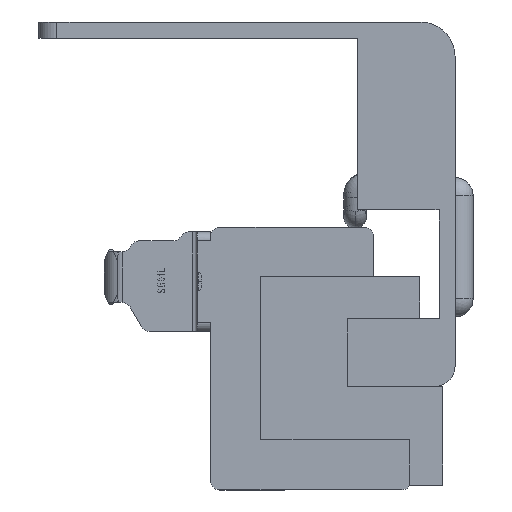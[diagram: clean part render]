
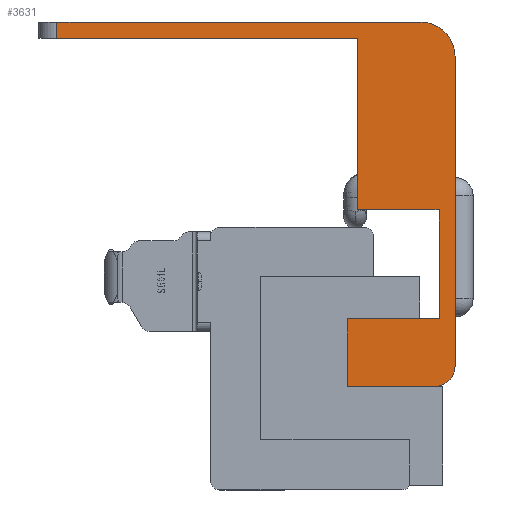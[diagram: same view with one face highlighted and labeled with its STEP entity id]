
A CAD part, left-side view. The second image highlights one B-rep face of the part: STEP entity #3631.
In plain terms, the highlighted planar face has unit normal (-1, 0, 0).
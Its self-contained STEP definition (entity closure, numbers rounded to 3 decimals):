
#44 = VERTEX_POINT ( 'NONE', #2366 ) ;
#48 = CARTESIAN_POINT ( 'NONE',  ( -137.5, 10.77, 19.53 ) ) ;
#113 = VECTOR ( 'NONE', #5038, 1000. ) ;
#165 = CARTESIAN_POINT ( 'NONE',  ( -137.5, 10.77, 19.53 ) ) ;
#725 = ORIENTED_EDGE ( 'NONE', *, *, #10718, .F. ) ;
#1054 = DIRECTION ( 'NONE',  ( 0., 0., 1. ) ) ;
#1098 = DIRECTION ( 'NONE',  ( 0., 0., -1. ) ) ;
#1136 = ORIENTED_EDGE ( 'NONE', *, *, #6733, .F. ) ;
#1183 = CARTESIAN_POINT ( 'NONE',  ( -137.5, 11.92, 0. ) ) ;
#1215 = ORIENTED_EDGE ( 'NONE', *, *, #12844, .F. ) ;
#1228 = VERTEX_POINT ( 'NONE', #4011 ) ;
#1731 = CARTESIAN_POINT ( 'NONE',  ( -137.5, 46., 40.3 ) ) ;
#1800 = CARTESIAN_POINT ( 'NONE',  ( -137.5, 1.77, 2.27 ) ) ;
#1861 = LINE ( 'NONE', #1731, #11880 ) ;
#1872 = VECTOR ( 'NONE', #5831, 1000. ) ;
#1953 = VERTEX_POINT ( 'NONE', #5474 ) ;
#2281 = ORIENTED_EDGE ( 'NONE', *, *, #4417, .F. ) ;
#2366 = CARTESIAN_POINT ( 'NONE',  ( -137.5, 44., 40.3 ) ) ;
#2435 = VECTOR ( 'NONE', #1054, 1000. ) ;
#2470 = LINE ( 'NONE', #1800, #5110 ) ;
#2565 = VERTEX_POINT ( 'NONE', #8740 ) ;
#2615 = CARTESIAN_POINT ( 'NONE',  ( -137.5, 2.27, 2.27 ) ) ;
#2740 = EDGE_LOOP ( 'NONE', ( #2281, #5557, #7598, #1136, #10052, #4888, #4212, #7429, #9908, #725, #1215, #6610 ) ) ;
#3175 = DIRECTION ( 'NONE',  ( 1., 0., 0. ) ) ;
#3624 = DIRECTION ( 'NONE',  ( 0., 0., -1. ) ) ;
#3631 = ADVANCED_FACE ( 'NONE', ( #5704 ), #12076, .F. ) ;
#3712 = VERTEX_POINT ( 'NONE', #1183 ) ;
#4011 = CARTESIAN_POINT ( 'NONE',  ( -137.5, 2.27, 0. ) ) ;
#4165 = VERTEX_POINT ( 'NONE', #10398 ) ;
#4212 = ORIENTED_EDGE ( 'NONE', *, *, #5690, .F. ) ;
#4271 = EDGE_CURVE ( 'NONE', #4292, #1228, #11427, .T. ) ;
#4292 = VERTEX_POINT ( 'NONE', #7620 ) ;
#4415 = AXIS2_PLACEMENT_3D ( 'NONE', #6068, #7063, #1098 ) ;
#4417 = EDGE_CURVE ( 'NONE', #1228, #3712, #4519, .T. ) ;
#4488 = DIRECTION ( 'NONE',  ( 0., 1., 0. ) ) ;
#4494 = CARTESIAN_POINT ( 'NONE',  ( -137.5, 44., 38.53 ) ) ;
#4519 = LINE ( 'NONE', #7798, #1872 ) ;
#4573 = CARTESIAN_POINT ( 'NONE',  ( -137.5, 3.77, 40.3 ) ) ;
#4599 = AXIS2_PLACEMENT_3D ( 'NONE', #2615, #9615, #3624 ) ;
#4613 = CARTESIAN_POINT ( 'NONE',  ( -137.5, 11.92, 0. ) ) ;
#4888 = ORIENTED_EDGE ( 'NONE', *, *, #5928, .T. ) ;
#4997 = CARTESIAN_POINT ( 'NONE',  ( -137.5, 0., 36.53 ) ) ;
#5012 = EDGE_CURVE ( 'NONE', #44, #5380, #1861, .T. ) ;
#5038 = DIRECTION ( 'NONE',  ( 0., 0., -1. ) ) ;
#5110 = VECTOR ( 'NONE', #7763, 1000. ) ;
#5173 = DIRECTION ( 'NONE',  ( 0., 0., -1. ) ) ;
#5245 = VECTOR ( 'NONE', #8657, 1000. ) ;
#5302 = AXIS2_PLACEMENT_3D ( 'NONE', #9157, #3175, #10188 ) ;
#5380 = VERTEX_POINT ( 'NONE', #4573 ) ;
#5399 = EDGE_CURVE ( 'NONE', #3712, #1953, #11729, .T. ) ;
#5424 = LINE ( 'NONE', #11053, #113 ) ;
#5474 = CARTESIAN_POINT ( 'NONE',  ( -137.5, 11.92, 7.488 ) ) ;
#5557 = ORIENTED_EDGE ( 'NONE', *, *, #4271, .F. ) ;
#5690 = EDGE_CURVE ( 'NONE', #2565, #12748, #8249, .T. ) ;
#5704 = FACE_OUTER_BOUND ( 'NONE', #2740, .T. ) ;
#5831 = DIRECTION ( 'NONE',  ( 0., 1., 0. ) ) ;
#5928 = EDGE_CURVE ( 'NONE', #44, #12748, #5424, .T. ) ;
#6068 = CARTESIAN_POINT ( 'NONE',  ( -137.5, 12.42, 1.5 ) ) ;
#6383 = VECTOR ( 'NONE', #11638, 1000. ) ;
#6504 = CARTESIAN_POINT ( 'NONE',  ( -137.5, 43.5, 38.53 ) ) ;
#6610 = ORIENTED_EDGE ( 'NONE', *, *, #5399, .F. ) ;
#6733 = EDGE_CURVE ( 'NONE', #5380, #12163, #10771, .T. ) ;
#7063 = DIRECTION ( 'NONE',  ( 1., 0., 0. ) ) ;
#7429 = ORIENTED_EDGE ( 'NONE', *, *, #12579, .F. ) ;
#7598 = ORIENTED_EDGE ( 'NONE', *, *, #9497, .F. ) ;
#7620 = CARTESIAN_POINT ( 'NONE',  ( -137.5, 0., 2.27 ) ) ;
#7670 = VECTOR ( 'NONE', #12056, 1000. ) ;
#7730 = CARTESIAN_POINT ( 'NONE',  ( -137.5, 1.77, 19.53 ) ) ;
#7739 = LINE ( 'NONE', #48, #2435 ) ;
#7763 = DIRECTION ( 'NONE',  ( 0., 0., 1. ) ) ;
#7771 = DIRECTION ( 'NONE',  ( 0., -1., 0. ) ) ;
#7798 = CARTESIAN_POINT ( 'NONE',  ( -137.5, 12.42, 0. ) ) ;
#8208 = LINE ( 'NONE', #9680, #5245 ) ;
#8249 = LINE ( 'NONE', #6504, #8569 ) ;
#8476 = EDGE_CURVE ( 'NONE', #4165, #9831, #10362, .T. ) ;
#8569 = VECTOR ( 'NONE', #4488, 1000. ) ;
#8608 = LINE ( 'NONE', #12189, #11595 ) ;
#8657 = DIRECTION ( 'NONE',  ( 0., -1., 0. ) ) ;
#8740 = CARTESIAN_POINT ( 'NONE',  ( -137.5, 10.77, 38.53 ) ) ;
#9157 = CARTESIAN_POINT ( 'NONE',  ( -137.5, 3.77, 36.53 ) ) ;
#9497 = EDGE_CURVE ( 'NONE', #12163, #4292, #8608, .T. ) ;
#9615 = DIRECTION ( 'NONE',  ( 1., 0., 0. ) ) ;
#9680 = CARTESIAN_POINT ( 'NONE',  ( -137.5, 11.92, 7.488 ) ) ;
#9831 = VERTEX_POINT ( 'NONE', #7730 ) ;
#9908 = ORIENTED_EDGE ( 'NONE', *, *, #8476, .T. ) ;
#10052 = ORIENTED_EDGE ( 'NONE', *, *, #5012, .F. ) ;
#10160 = VERTEX_POINT ( 'NONE', #11830 ) ;
#10188 = DIRECTION ( 'NONE',  ( 0., 0., 1. ) ) ;
#10362 = LINE ( 'NONE', #165, #7670 ) ;
#10398 = CARTESIAN_POINT ( 'NONE',  ( -137.5, 10.77, 19.53 ) ) ;
#10718 = EDGE_CURVE ( 'NONE', #10160, #9831, #2470, .T. ) ;
#10771 = CIRCLE ( 'NONE', #5302, 3.77 ) ;
#11053 = CARTESIAN_POINT ( 'NONE',  ( -137.5, 44., 1.5 ) ) ;
#11427 = CIRCLE ( 'NONE', #4599, 2.27 ) ;
#11595 = VECTOR ( 'NONE', #5173, 1000. ) ;
#11638 = DIRECTION ( 'NONE',  ( 0., 0., 1. ) ) ;
#11729 = LINE ( 'NONE', #4613, #6383 ) ;
#11830 = CARTESIAN_POINT ( 'NONE',  ( -137.5, 1.77, 7.488 ) ) ;
#11880 = VECTOR ( 'NONE', #7771, 1000. ) ;
#12056 = DIRECTION ( 'NONE',  ( 0., -1., 0. ) ) ;
#12076 = PLANE ( 'NONE',  #4415 ) ;
#12163 = VERTEX_POINT ( 'NONE', #4997 ) ;
#12189 = CARTESIAN_POINT ( 'NONE',  ( -137.5, 0., 36.53 ) ) ;
#12579 = EDGE_CURVE ( 'NONE', #4165, #2565, #7739, .T. ) ;
#12748 = VERTEX_POINT ( 'NONE', #4494 ) ;
#12844 = EDGE_CURVE ( 'NONE', #1953, #10160, #8208, .T. ) ;
